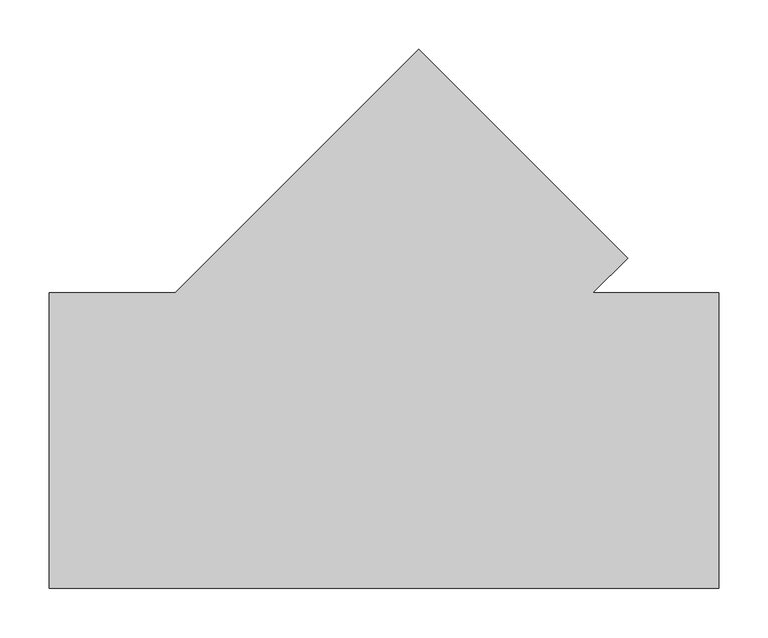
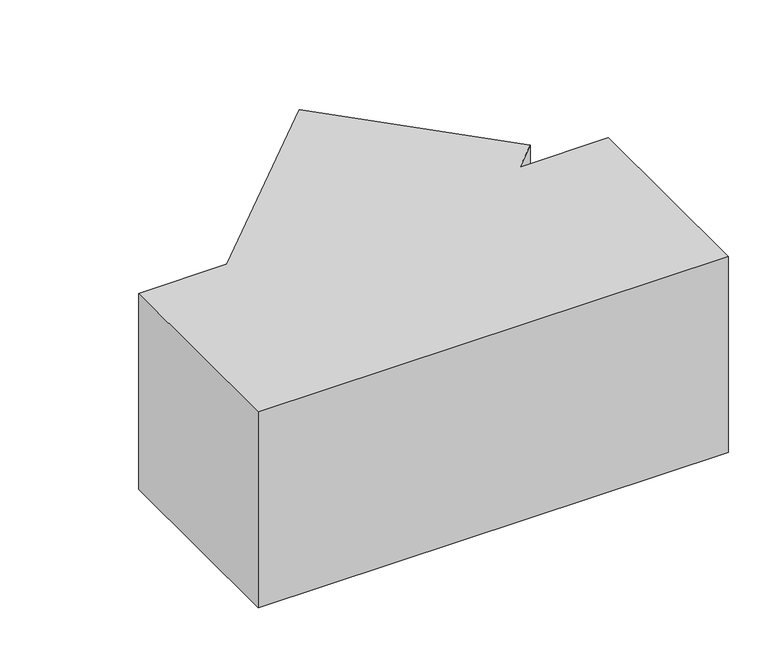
"""IFC4 building model written with IfcOpenShell, lengths in millimetres: duct fitting geometry, BL_ТройникВоздуховодов_Прямоугольный-45 : BL_ТройникВоздуховодов_Прямоугольный-45."""

from ifc_helpers import new_model, si_unit, frame, origin, place, context, project, spatial, polyline, outline, extrude, source, transform, mapped, element, save


def duct_fitting_359aeb7f(model_context):
    return source(origin(), model_context, "Body", "SweptSolid", [
        extrude(outline(polyline([(-340.0, 150.0), (-212.1320344, 150.0), (35.3553391, 397.4873734), (247.4873734, 185.3553391), (212.1320344, 150.0), (340.0, 150.0), (340.0, -150.0), (-340.0, -150.0), (-340.0, 150.0)])), frame((0.0, 0.0, -150.0), z_axis=(0.0, 0.0, 1.0), x_axis=(1.0, 0.0, 0.0)), (0.0, 0.0, 1.0), 300.0),
    ])


if __name__ == "__main__":
    model = new_model("IFC4")
    model_context = context("Model", 3, world=origin())
    ifc_project = project(units=[si_unit("LENGTHUNIT", "METRE", prefix="MILLI")], contexts=[model_context])
    site = spatial("IfcSite", under=ifc_project)
    building = spatial("IfcBuilding", under=site)
    placement = place(None, origin())
    duct_fitting_shape = duct_fitting_359aeb7f(model_context)
    element("IfcDuctFitting", 1, ObjectType="BL_ТройникВоздуховодов_Прямоугольный-45 : BL_ТройникВоздуховодов_Прямоугольный-45", at=placement, inside=building, context=model_context, shape_type="MappedRepresentation", body=[
        mapped(duct_fitting_shape, transform((0.0, 0.0, 0.0), x_axis=(1.0, 0.0, 0.0), y_axis=(0.0, 1.0, 0.0), z_axis=(0.0, 0.0, 1.0))),
    ])
    save(model, "model.ifc")
